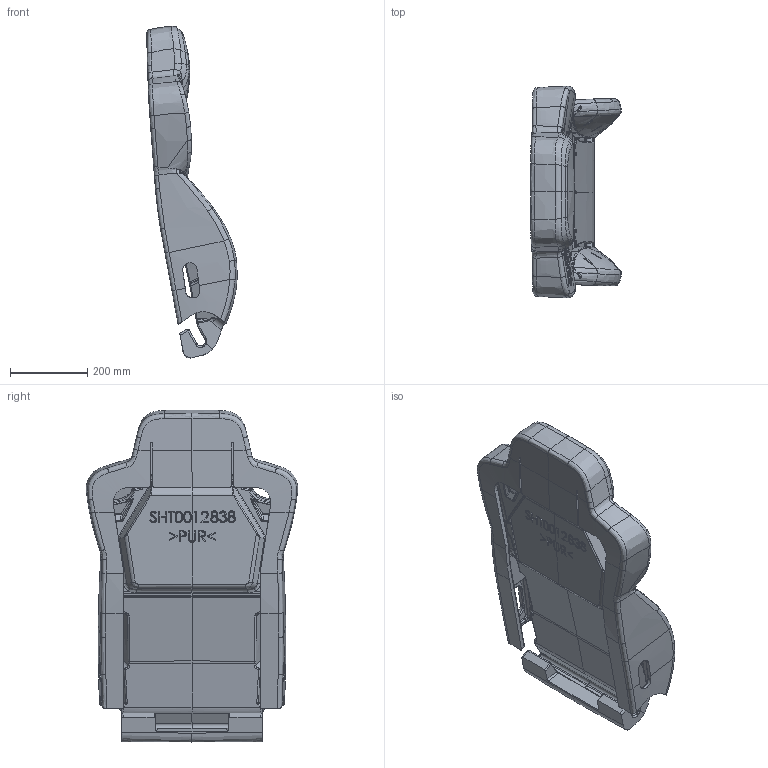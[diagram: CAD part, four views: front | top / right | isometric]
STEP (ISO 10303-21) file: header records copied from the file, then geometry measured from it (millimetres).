
FILE_DESCRIPTION(('CATIA V5 STEP Exchange'),'2;1');
FILE_NAME('C:\Users\zhangchangjiang\Desktop\SHT0012838.stp','2021-02-04T05:57:51+00:00',('none'),('none'),'CATIA Version 5 Release 20 GA (IN-10)','CATIA V5 STEP AP214','none');
FILE_SCHEMA(('AUTOMOTIVE_DESIGN { 1 0 10303 214 1 1 1 1 }'));
Products named in the file (7): SHT0012838; SLT0001093; SHT0010551; SHT0010552; SHT0010553; SHT0010619; T712靠背发泡
Assembly tree (7 placements, depth 2):
  SHT0012838
    SLT0001093
    SHT0010551
    SHT0010552  x2
    SHT0010553
    SHT0010619
    T712靠背发泡
Bounding box: 234.94 x 548.12 x 860.56 mm (x, y, z)
Volume: 22847149.5 mm3; surface area: 1540923.6 mm2
Topology: 7 solids, 7 shells, 5356 faces, 14015 edges, 8239 vertices
Faces by surface type: plane 2135, bspline 2085, cylinder 509, sphere 453, torus 98, extrusion 54, revolution 22
Entity records: 350697 total; most frequent: CARTESIAN_POINT 242713, ORIENTED_EDGE 27044, DIRECTION 13666, EDGE_CURVE 13522, VERTEX_POINT 8227, VECTOR 6646, LINE 6592, B_SPLINE_CURVE_WITH_KNOTS 6085
